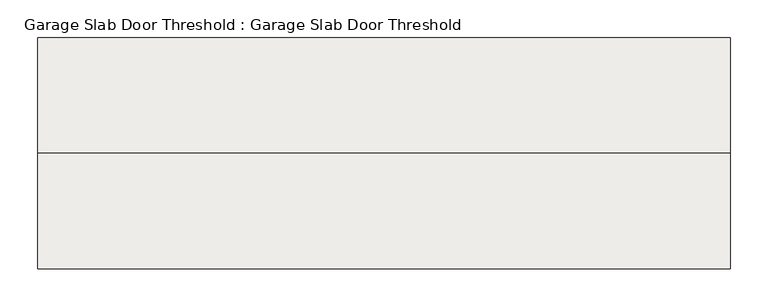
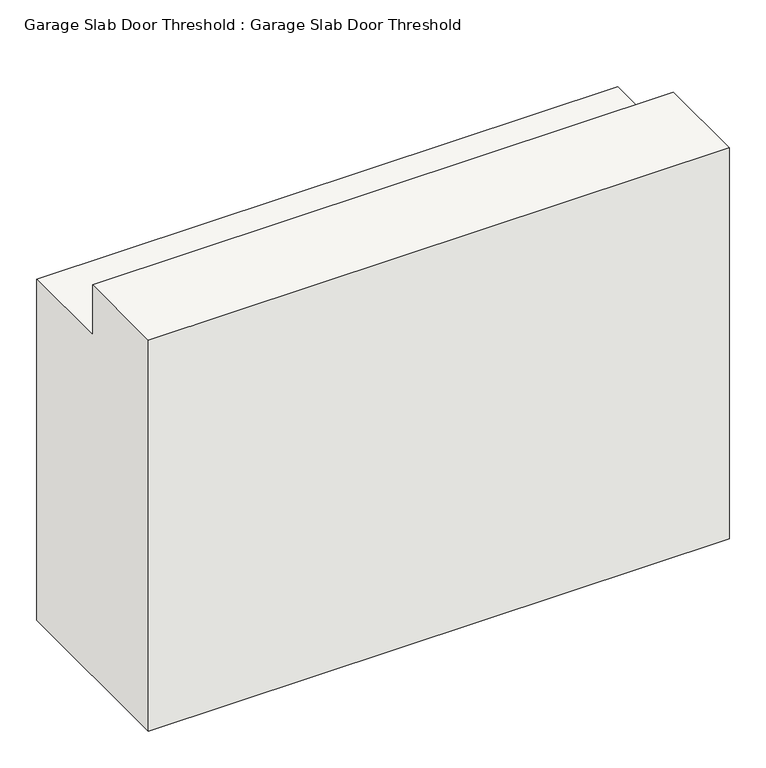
"""IFC4 building model written with IfcOpenShell, lengths in millimetres: slab geometry, Garage Slab Door Threshold : Garage Slab Door Threshold."""

import ifcopenshell
import ifcopenshell.guid

model = None  # the IFC model being written
_history = None  # IfcOwnerHistory: only IFC2X3 demands one
_inside = {}  # id of a spatial element -> (the spatial element, [elements in it])
_under = {}  # id of a project, library or spatial element -> (it, [spatial elements below it])
_declared = {}  # id of a project -> (the project, [libraries it declares])
_typed = {}  # id of a type object -> (the type object, [elements of that type])
_made_of = {}  # id of a material, layer set ... -> (it, [elements and type objects made of it])


def new_model(schema):
    """Start an empty IFC model of exactly this schema.

    Asked for "IFC4X3", IfcOpenShell would pick the latest addendum, in which some entities
    have other attributes; the version numbers below select the first issue.
    IFC2X3 requires an IfcOwnerHistory on every rooted entity: one is made here for all.
    """
    global model, _history
    if schema == "IFC4X3":
        model = ifcopenshell.file(schema_version=(4, 3, 0, 0))
    else:
        model = ifcopenshell.file(schema=schema)
    _inside.clear()
    _under.clear()
    _declared.clear()
    _typed.clear()
    _made_of.clear()
    _history = None
    if model.schema == "IFC2X3":
        org = make("IfcOrganization", Name="unknown")
        user = make(
            "IfcPersonAndOrganization",
            ThePerson=make("IfcPerson", FamilyName="unknown"),
            TheOrganization=org,
        )
        app = make(
            "IfcApplication",
            ApplicationDeveloper=org,
            Version="unknown",
            ApplicationFullName="unknown",
            ApplicationIdentifier="unknown",
        )
        _history = make(
            "IfcOwnerHistory",
            OwningUser=user,
            OwningApplication=app,
            ChangeAction="ADDED",
            CreationDate=0,
        )
    return model


def make(cls, **values):
    """One entity of the class cls with the attributes given. An attribute that is None is left unset."""
    return model.create_entity(
        cls, **{name: value for name, value in values.items() if value is not None}
    )


def rooted(cls, **values):
    """An entity with a GlobalId (a new one), such as an element, a storey or a relation."""
    return make(cls, GlobalId=ifcopenshell.guid.new(), OwnerHistory=_history, **values)


def si_unit(unit_type, name, prefix=None):
    """IfcSIUnit, for example si_unit("LENGTHUNIT", "METRE", prefix="MILLI")."""
    return make("IfcSIUnit", UnitType=unit_type, Prefix=prefix, Name=name)


def assignment(units):
    """IfcUnitAssignment: the units of a project."""
    return None if units is None else make("IfcUnitAssignment", Units=units)


def point(xyz):
    """IfcCartesianPoint."""
    return None if xyz is None else make("IfcCartesianPoint", Coordinates=xyz)


def direction(xyz):
    """IfcDirection."""
    return None if xyz is None else make("IfcDirection", DirectionRatios=xyz)


def frame(location, z_axis=None, x_axis=None):
    """IfcAxis2Placement3D, a coordinate frame: its origin and axes. An axis left out is left unset."""
    return make(
        "IfcAxis2Placement3D",
        Location=point(location),
        Axis=direction(z_axis),
        RefDirection=direction(x_axis),
    )


def origin():
    """The frame at (0, 0, 0) with its axes left unset."""
    return frame((0.0, 0.0, 0.0))


def place(relative_to, where):
    """IfcLocalPlacement: puts the frame where relative to a parent placement (None: the world)."""
    return make(
        "IfcLocalPlacement", PlacementRelTo=relative_to, RelativePlacement=where
    )


def context(
    kind, dimensions, precision=None, world=None, true_north=None, identifier=None
):
    """IfcGeometricRepresentationContext, for example the 3D "Model" context."""
    return make(
        "IfcGeometricRepresentationContext",
        ContextIdentifier=identifier,
        ContextType=kind,
        CoordinateSpaceDimension=dimensions,
        Precision=precision,
        WorldCoordinateSystem=world,
        TrueNorth=true_north,
    )


def project(units=None, contexts=None):
    """IfcProject with its units and contexts."""
    return rooted(
        "IfcProject",
        Name="project",
        RepresentationContexts=contexts,
        UnitsInContext=assignment(units),
    )


def spatial(cls, under=None, at=None, **own):
    """A site, building, storey or space (cls), placed at a placement, below another one or the project."""
    s = rooted(cls, ObjectPlacement=at, **own)
    if under is not None:
        _under.setdefault(under.id(), (under, []))[1].append(s)
    return s


def faces_of(points, faces, orient=None, outer=None):
    """IfcFace entities. A face is a list of loops; a loop is a list of indices into points, from 0.

    orient and outer hold one flag for each loop. By default every Orientation is true, the
    first loop of a face is its IfcFaceOuterBound and the others are IfcFaceBound.
    """
    made = []
    for i, loops in enumerate(faces):
        bounds = []
        for j, loop in enumerate(loops):
            is_outer = j == 0 if outer is None else outer[i][j]
            bounds.append(
                make(
                    "IfcFaceOuterBound" if is_outer else "IfcFaceBound",
                    Bound=make("IfcPolyLoop", Polygon=[points[k] for k in loop]),
                    Orientation=True if orient is None else orient[i][j],
                )
            )
        made.append(make("IfcFace", Bounds=bounds))
    return made


def faceted_brep(points, faces, orient=None, outer=None, voids=None):
    """IfcFacetedBrep: a solid bounded by flat faces; with voids (closed shells), ...WithVoids."""
    shared = [point(p) for p in points]
    hull = make("IfcClosedShell", CfsFaces=faces_of(shared, faces, orient, outer))
    if voids is None:
        return make("IfcFacetedBrep", Outer=hull)
    return make(
        "IfcFacetedBrepWithVoids",
        Outer=hull,
        Voids=[
            make(cls, CfsFaces=faces_of(shared, fs, o, b)) for cls, fs, o, b in voids
        ],
    )


def shape(context_of_items, identifier, shape_type, items):
    """IfcShapeRepresentation: the items that make up one representation, for example the "Body"."""
    return make(
        "IfcShapeRepresentation",
        ContextOfItems=context_of_items,
        RepresentationIdentifier=identifier,
        RepresentationType=shape_type,
        Items=items,
    )


def source(mapping_origin, context_of_items, identifier, shape_type, items):
    """IfcRepresentationMap: a shape defined once, which mapped items show again and again."""
    return make(
        "IfcRepresentationMap",
        MappingOrigin=mapping_origin,
        MappedRepresentation=shape(context_of_items, identifier, shape_type, items),
    )


def transform(
    local_origin,
    x_axis=None,
    y_axis=None,
    z_axis=None,
    scale=None,
    scale2=None,
    scale3=None,
    uniform=True,
):
    """IfcCartesianTransformationOperator3D, or its non-uniform kind. x_axis, y_axis, z_axis: its Axis1, 2, 3."""
    if uniform:
        return make(
            "IfcCartesianTransformationOperator3D",
            Axis1=direction(x_axis),
            Axis2=direction(y_axis),
            LocalOrigin=point(local_origin),
            Scale=scale,
            Axis3=direction(z_axis),
        )
    return make(
        "IfcCartesianTransformationOperator3DnonUniform",
        Axis1=direction(x_axis),
        Axis2=direction(y_axis),
        LocalOrigin=point(local_origin),
        Scale=scale,
        Axis3=direction(z_axis),
        Scale2=scale2,
        Scale3=scale3,
    )


def mapped(mapping_source, mapping_target):
    """IfcMappedItem: shows the shape of a source again, moved by a transform."""
    return make(
        "IfcMappedItem", MappingSource=mapping_source, MappingTarget=mapping_target
    )


def made_of(thing, what):
    """Note that an element or type object is made of a material, layer set ...; save() writes the relation."""
    if what is not None:
        _made_of.setdefault(what.id(), (what, []))[1].append(thing)
    return thing


def element(
    cls,
    number,
    at=None,
    inside=None,
    cuts=None,
    type_object=None,
    material=None,
    context=None,
    identifier="Body",
    shape_type=None,
    held_by="IfcProductDefinitionShape",
    body=None,
    shapes=None,
    **own,
):
    """One element of the class cls, such as IfcWall. Its Tag is "e" and its number.

    at: its placement. inside: the storey or other place that contains it. cuts: it is an
    opening in that element (IfcRelVoidsElement). A single representation is given by context,
    identifier, shape_type and body (its items); several are given by shapes. held_by: the class
    of the entity that holds the representations. save() writes the other relations.
    """
    e = rooted(cls, Tag="e%d" % number, ObjectPlacement=at, **own)
    if body is not None:
        shapes = [shape(context, identifier, shape_type, body)]
    if shapes is not None:
        e.Representation = make(held_by, Representations=shapes)
    if inside is not None:
        _inside.setdefault(inside.id(), (inside, []))[1].append(e)
    if cuts is not None:
        rooted(
            "IfcRelVoidsElement", RelatingBuildingElement=cuts, RelatedOpeningElement=e
        )
    if type_object is not None:
        _typed.setdefault(type_object.id(), (type_object, []))[1].append(e)
    return made_of(e, material)


def aggregate(whole, parts):
    """IfcRelAggregates: a whole, such as a stair, and the parts it consists of."""
    return rooted("IfcRelAggregates", RelatingObject=whole, RelatedObjects=parts)


def save(model, path):
    """Write the relations noted so far, then the file.

    IfcRelAggregates (storeys below a building ...), IfcRelContainedInSpatialStructure (elements
    in a storey), IfcRelDefinesByType, IfcRelAssociatesMaterial and IfcRelDeclares: one each for
    every whole, place, type object, material and project.
    """
    for whole, parts in _under.values():
        aggregate(whole, parts)
    for where, things in _inside.values():
        rooted(
            "IfcRelContainedInSpatialStructure",
            RelatedElements=things,
            RelatingStructure=where,
        )
    for kind, things in _typed.values():
        rooted("IfcRelDefinesByType", RelatedObjects=things, RelatingType=kind)
    for what, things in _made_of.values():
        rooted("IfcRelAssociatesMaterial", RelatedObjects=things, RelatingMaterial=what)
    for by, libraries in _declared.values():
        rooted("IfcRelDeclares", RelatingContext=by, RelatedDefinitions=libraries)
    model.write(path)


def garage_slab_door_threshold_garage_slab_door_threshold_fe057ce6(model_context):
    return source(origin(), model_context, "Body", "Brep", [
        faceted_brep([(-12319.9178637, 5177.3349287, -346.9472754), (-12319.9178637, 5177.3349287, -914.4), (-12319.9178637, 4872.5349287, -914.4), (-12319.9178637, 4872.5349287, -263.2232732), (-12319.9178637, 5024.9349287, -263.2232732), (-12319.9178637, 5024.9349287, -342.9), (-12319.9178637, 5024.9349287, -346.9472754), (-11405.5178637, 5177.3349287, -346.9472754), (-11405.5178637, 5024.9349287, -346.9472754), (-11405.5178637, 5024.9349287, -307.975), (-11405.5178637, 5024.9349287, -266.3931878), (-11405.5178637, 5024.9349287, -263.2232732), (-11405.5178637, 4872.5349287, -263.2232732), (-11405.5178637, 4872.5349287, -914.4), (-11405.5178637, 5177.3349287, -914.4), (-11405.5178637, 5177.3349287, -367.9982732)], [[[0, 1, 2, 3, 4, 5, 6]], [[7, 8, 9, 10, 11, 12, 13, 14, 15]], [[1, 0, 7, 15, 14]], [[2, 1, 14, 13]], [[3, 2, 13, 12]], [[4, 3, 12, 11]], [[6, 5, 4, 11, 10, 9, 8]], [[0, 6, 8, 7]]]),
    ])


if __name__ == "__main__":
    model = new_model("IFC4")
    model_context = context("Model", 3, world=origin())
    ifc_project = project(units=[si_unit("LENGTHUNIT", "METRE", prefix="MILLI")], contexts=[model_context])
    site = spatial("IfcSite", under=ifc_project)
    building = spatial("IfcBuilding", under=site)
    placement = place(None, origin())
    garage_slab_door_threshold_garage_slab_door_threshold_shape = garage_slab_door_threshold_garage_slab_door_threshold_fe057ce6(model_context)
    element("IfcSlab", 1, ObjectType="Garage Slab Door Threshold : Garage Slab Door Threshold", at=placement, inside=building, context=model_context, shape_type="MappedRepresentation", body=[
        mapped(garage_slab_door_threshold_garage_slab_door_threshold_shape, transform((0.0, 0.0, 0.0), x_axis=(1.0, 0.0, 0.0), y_axis=(0.0, 1.0, 0.0), z_axis=(0.0, 0.0, 1.0))),
    ])
    save(model, "model.ifc")
